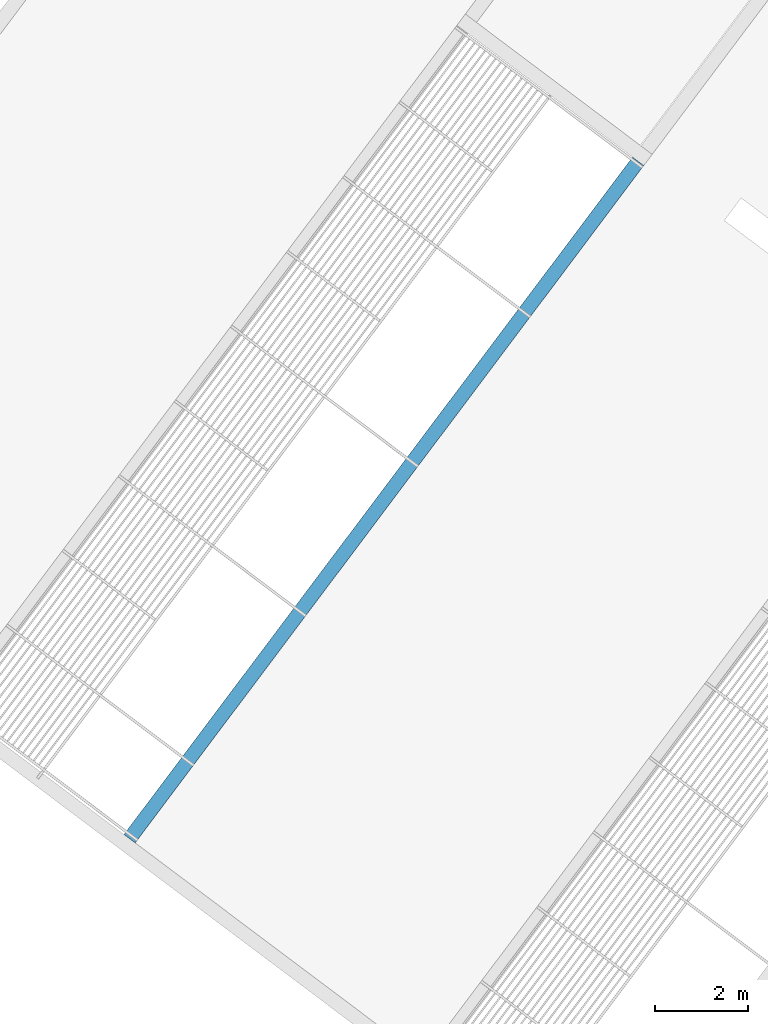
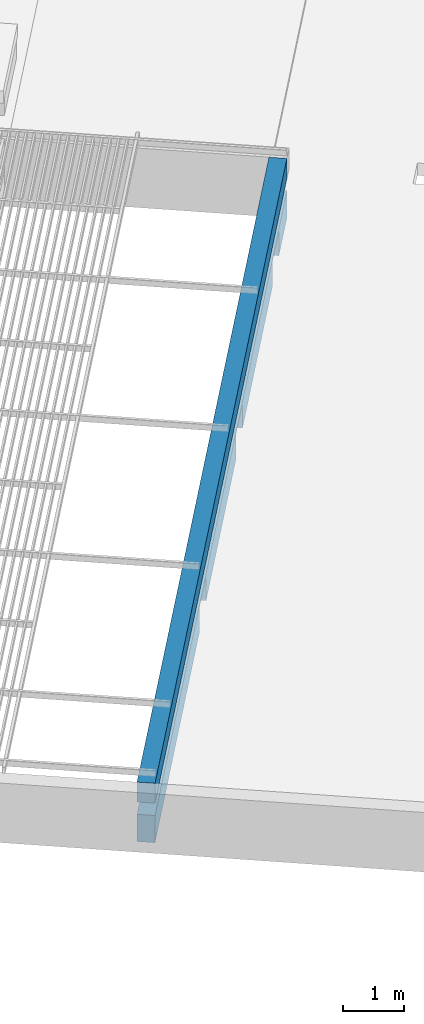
# One storey, part 93 of 95: 1 beam.
"""IFC2X3 building model written with IfcOpenShell, lengths in metres."""

from ifc_helpers import new_model, entity, si_unit, converted_unit, derived_unit, direction, frame, origin, place, context, subcontext, project, spatial, faceted_brep, source, transform, mapped, material, type_object, type_shapes, element, save


model = new_model("IFC2X3")

# Units and contexts
model_context = context("Model", 3, precision=1e-05, world=origin(), true_north=direction((6.123031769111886e-17, 1.0)))
body_context = subcontext(model_context, "Body", "Model", "MODEL_VIEW")
ifc_project = project(units=[si_unit("LENGTHUNIT", "METRE"), si_unit("AREAUNIT", "SQUARE_METRE"), si_unit("VOLUMEUNIT", "CUBIC_METRE"), converted_unit("PLANEANGLEUNIT", "DEGREE", entity("IfcRatioMeasure", 0.017453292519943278), si_unit("PLANEANGLEUNIT", "RADIAN"), dimensions=[0, 0, 0, 0, 0, 0, 0]), si_unit("MASSUNIT", "GRAM", prefix="KILO"), derived_unit("MASSDENSITYUNIT", [(si_unit("MASSUNIT", "GRAM", prefix="KILO"), 1), (si_unit("LENGTHUNIT", "METRE"), -3)]), derived_unit("IONCONCENTRATIONUNIT", [(si_unit("MASSUNIT", "GRAM", prefix="KILO"), 1), (si_unit("LENGTHUNIT", "METRE"), -3)]), derived_unit("MOMENTOFINERTIAUNIT", [(si_unit("LENGTHUNIT", "METRE"), 4)]), si_unit("TIMEUNIT", "SECOND"), si_unit("FREQUENCYUNIT", "HERTZ"), si_unit("THERMODYNAMICTEMPERATUREUNIT", "DEGREE_CELSIUS"), derived_unit("THERMALTRANSMITTANCEUNIT", [(si_unit("MASSUNIT", "GRAM", prefix="KILO"), 1), (si_unit("THERMODYNAMICTEMPERATUREUNIT", "KELVIN"), -1), (si_unit("TIMEUNIT", "SECOND"), -3)]), derived_unit("THERMALCONDUCTANCEUNIT", [(si_unit("MASSUNIT", "GRAM", prefix="KILO"), 1), (si_unit("THERMODYNAMICTEMPERATUREUNIT", "KELVIN"), -1), (si_unit("TIMEUNIT", "SECOND"), -3), (si_unit("LENGTHUNIT", "METRE"), 1)]), derived_unit("VOLUMETRICFLOWRATEUNIT", [(si_unit("LENGTHUNIT", "METRE"), 3), (si_unit("TIMEUNIT", "SECOND"), -1)]), derived_unit("MASSFLOWRATEUNIT", [(si_unit("MASSUNIT", "GRAM", prefix="KILO"), 1), (si_unit("TIMEUNIT", "SECOND"), -1)]), derived_unit("ROTATIONALFREQUENCYUNIT", [(si_unit("TIMEUNIT", "SECOND"), -1)]), si_unit("ELECTRICCURRENTUNIT", "AMPERE"), si_unit("ELECTRICVOLTAGEUNIT", "VOLT"), si_unit("POWERUNIT", "WATT"), si_unit("FORCEUNIT", "NEWTON", prefix="KILO"), si_unit("ILLUMINANCEUNIT", "LUX"), si_unit("LUMINOUSFLUXUNIT", "LUMEN"), si_unit("LUMINOUSINTENSITYUNIT", "CANDELA"), derived_unit("USERDEFINED", [(si_unit("MASSUNIT", "GRAM", prefix="KILO"), -1), (si_unit("LENGTHUNIT", "METRE"), -2), (si_unit("TIMEUNIT", "SECOND"), 3), (si_unit("LUMINOUSFLUXUNIT", "LUMEN"), 1)]), derived_unit("USERDEFINED", [(si_unit("MASSUNIT", "GRAM", prefix="KILO"), 1), (si_unit("TIMEUNIT", "SECOND"), -3), (si_unit("LENGTHUNIT", "METRE"), 3), (si_unit("ELECTRICCURRENTUNIT", "AMPERE"), -2)]), derived_unit("SOUNDPOWERUNIT", [(si_unit("MASSUNIT", "GRAM", prefix="KILO"), 1), (si_unit("TIMEUNIT", "SECOND"), -3), (si_unit("LENGTHUNIT", "METRE"), 2)]), derived_unit("SOUNDPRESSUREUNIT", [(si_unit("MASSUNIT", "GRAM", prefix="KILO"), 1), (si_unit("LENGTHUNIT", "METRE"), -1), (si_unit("TIMEUNIT", "SECOND"), -2)]), derived_unit("LINEARVELOCITYUNIT", [(si_unit("LENGTHUNIT", "METRE"), 1), (si_unit("TIMEUNIT", "SECOND"), -1)]), si_unit("PRESSUREUNIT", "PASCAL"), derived_unit("USERDEFINED", [(si_unit("MASSUNIT", "GRAM", prefix="KILO"), 1), (si_unit("LENGTHUNIT", "METRE"), -2), (si_unit("TIMEUNIT", "SECOND"), -2)]), derived_unit("LINEARFORCEUNIT", [(si_unit("MASSUNIT", "GRAM", prefix="KILO"), 1), (si_unit("TIMEUNIT", "SECOND"), -2)]), derived_unit("PLANARFORCEUNIT", [(si_unit("MASSUNIT", "GRAM", prefix="KILO"), 1), (si_unit("LENGTHUNIT", "METRE"), -1), (si_unit("TIMEUNIT", "SECOND"), -2)]), derived_unit("SPECIFICHEATCAPACITYUNIT", [(si_unit("THERMODYNAMICTEMPERATUREUNIT", "KELVIN"), -1), (si_unit("LENGTHUNIT", "METRE"), 2), (si_unit("TIMEUNIT", "SECOND"), -2)]), derived_unit("HEATINGVALUEUNIT", [(si_unit("LENGTHUNIT", "METRE"), 2), (si_unit("TIMEUNIT", "SECOND"), -2)]), derived_unit("VAPORPERMEABILITYUNIT", [(si_unit("LENGTHUNIT", "METRE"), -1), (si_unit("TIMEUNIT", "SECOND"), 1)]), derived_unit("DYNAMICVISCOSITYUNIT", [(si_unit("MASSUNIT", "GRAM", prefix="KILO"), 1), (si_unit("TIMEUNIT", "SECOND"), -1), (si_unit("LENGTHUNIT", "METRE"), -1)]), derived_unit("THERMALEXPANSIONCOEFFICIENTUNIT", [(si_unit("THERMODYNAMICTEMPERATUREUNIT", "KELVIN"), -1)]), derived_unit("MODULUSOFELASTICITYUNIT", [(si_unit("MASSUNIT", "GRAM", prefix="KILO"), 1), (si_unit("LENGTHUNIT", "METRE"), -1), (si_unit("TIMEUNIT", "SECOND"), -2)]), derived_unit("ISOTHERMALMOISTURECAPACITYUNIT", [(si_unit("LENGTHUNIT", "METRE"), 3), (si_unit("MASSUNIT", "GRAM", prefix="KILO"), -1)]), derived_unit("MOISTUREDIFFUSIVITYUNIT", [(si_unit("TIMEUNIT", "SECOND"), -1), (si_unit("LENGTHUNIT", "METRE"), 2)])], contexts=[model_context])

# Site, building, storey
site_placement = place(None, origin())
site = spatial("IfcSite", under=ifc_project, at=site_placement, Name="Default", CompositionType="ELEMENT")
building_placement = place(site_placement, frame((0.0, 0.0, 235.0), z_axis=(0.0, 0.0, 1.0), x_axis=(-0.7996477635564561, 0.6004693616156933, 0.0)))
building = spatial("IfcBuilding", under=site, at=building_placement, CompositionType="ELEMENT")
storey_placement = place(building_placement, frame((0.0, 0.0, 3.400000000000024)))
storey = spatial("IfcBuildingStorey", under=building, at=storey_placement, Name="PC- Coberta STR", CompositionType="ELEMENT", Elevation=3.400000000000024)

# Beam
ifc_material = material(Name="_Formigó- T1- STR")
beam_type = type_object("IfcBeamType", Name="STR- V- Formigó- Rectangular- T1:30x120 cm", PredefinedType="BEAM", material=ifc_material)
shared_shape = source(origin(), body_context, "Body", "Brep", [
    faceted_brep([(0.0, 0.0, 1.199999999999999), (0.3000000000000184, 0.0, 1.199999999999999), (0.3000000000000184, 18.124999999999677, 1.199999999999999), (0.0, 18.124999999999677, 1.199999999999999), (0.0, 18.124999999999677, 0.8000000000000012), (0.0, 0.0, 0.8000000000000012), (0.3000000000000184, 0.0, 0.8000000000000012), (0.3000000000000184, 18.124999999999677, 0.8000000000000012)], [[[0, 1, 2, 3]], [[0, 3, 4, 5]], [[2, 1, 6, 7]], [[3, 2, 7, 4]], [[5, 4, 7, 6]], [[1, 0, 5, 6]]]),
    faceted_brep([(0.3000000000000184, 0.0, 0.0), (0.0, 0.0, 0.0), (0.0, 1.099999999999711, 0.0), (0.25000000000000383, 1.099999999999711, 0.0), (0.25000000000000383, 2.0, 0.0), (0.0, 2.0, 0.0), (0.0, 6.099999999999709, 0.0), (0.2500000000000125, 6.099999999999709, 0.0), (0.2500000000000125, 7.0, 0.0), (0.0, 7.0, 0.0), (0.0, 11.099999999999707, 0.0), (0.25000000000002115, 11.099999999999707, 0.0), (0.25000000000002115, 12.0, 0.0), (0.0, 12.0, 0.0), (0.0, 16.324999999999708, 0.0), (0.0, 16.774999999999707, 0.0), (0.0, 18.124999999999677, 0.0), (0.3000000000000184, 18.124999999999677, 0.0), (0.3000000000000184, 16.77499999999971, 0.0), (0.3000000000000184, 16.324999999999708, 0.0), (0.3000000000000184, 0.0, 0.5500000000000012), (0.0, 0.0, 0.5500000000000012), (0.2500000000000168, 11.099999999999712, 0.5000000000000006), (0.25000000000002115, 12.0, 0.5000000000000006), (0.0, 11.099999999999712, 0.5000000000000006), (0.0, 12.0, 0.5000000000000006), (0.25000000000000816, 6.099999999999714, 0.5000000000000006), (0.2500000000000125, 7.0, 0.5000000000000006), (0.0, 6.099999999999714, 0.5000000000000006), (0.0, 7.0, 0.5000000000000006), (0.24999999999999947, 1.0999999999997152, 0.5000000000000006), (0.25000000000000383, 2.0, 0.5000000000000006), (0.0, 1.0999999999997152, 0.5000000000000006), (0.0, 2.0, 0.5000000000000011), (0.0, 18.124999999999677, 0.5500000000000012), (0.3000000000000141, 18.124999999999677, 0.5500000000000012)], [[[0, 1, 2, 3, 4, 5, 6, 7, 8, 9, 10, 11, 12, 13, 14, 15, 16, 17, 18, 19]], [[1, 0, 20, 21]], [[22, 23, 12, 11]], [[24, 22, 11, 10]], [[23, 25, 13, 12]], [[23, 22, 24, 25]], [[26, 27, 8, 7]], [[28, 26, 7, 6]], [[27, 29, 9, 8]], [[27, 26, 28, 29]], [[30, 31, 4, 3]], [[32, 30, 3, 2]], [[31, 33, 5, 4]], [[31, 30, 32, 33]], [[34, 21, 20, 35]], [[16, 15, 14, 13, 25, 24, 10, 9, 29, 28, 6, 5, 33, 32, 2, 1, 21, 34]], [[0, 19, 18, 17, 35, 20]], [[17, 16, 34, 35]]]),
])
type_shapes(beam_type, [shared_shape])
beam_placement = place(storey_placement, frame((36.34514768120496, -36.46519175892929, -0.8000000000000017)))
element("IfcBeam", 1, at=beam_placement, inside=storey, type_object=beam_type, material=ifc_material, Name="STR- V- Formigó- Rectangular- T1:30x120 cm", ObjectType="STR- V- Formigó- Rectangular- T1:30x120 cm", context=body_context, shape_type="MappedRepresentation", body=[
    mapped(shared_shape, transform((0.0, 0.0, 0.0), scale=1.0)),
])

save(model, "model.ifc")
